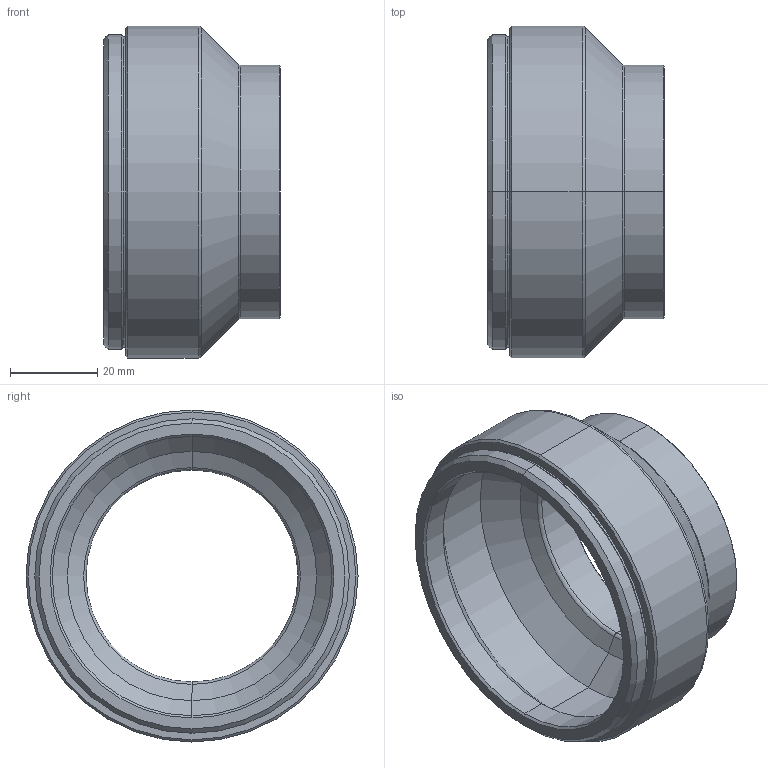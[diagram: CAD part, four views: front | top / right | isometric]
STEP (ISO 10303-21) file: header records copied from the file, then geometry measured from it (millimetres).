
FILE_DESCRIPTION (( 'STEP AP203' ), '1' );
FILE_NAME ('噩芛蛌諉遠F-M72T36.4.STEP', '2018-05-22T00:26:43', ( 'User' ), ( 'China' ), 'SwSTEP 2.0', 'SolidWorks 2015', '' );
FILE_SCHEMA (( 'CONFIG_CONTROL_DESIGN' ));
Length unit declared in the file: millimetre
Products named in the file (1): 噩芛蛌諉遠F-M72T36.4
Bounding box: 40.4 x 76 x 76 mm (x, y, z)
Volume: 31692.3 mm3; surface area: 20772.7 mm2
Topology: 1 solids, 1 shells, 80 faces, 176 edges, 94 vertices
Faces by surface type: cone 40, cylinder 29, torus 6, plane 5
Entity records: 2187 total; most frequent: DIRECTION 424, CARTESIAN_POINT 341, ORIENTED_EDGE 332, AXIS2_PLACEMENT_3D 177, EDGE_CURVE 166, CIRCLE 96, VERTEX_POINT 94, EDGE_LOOP 88
